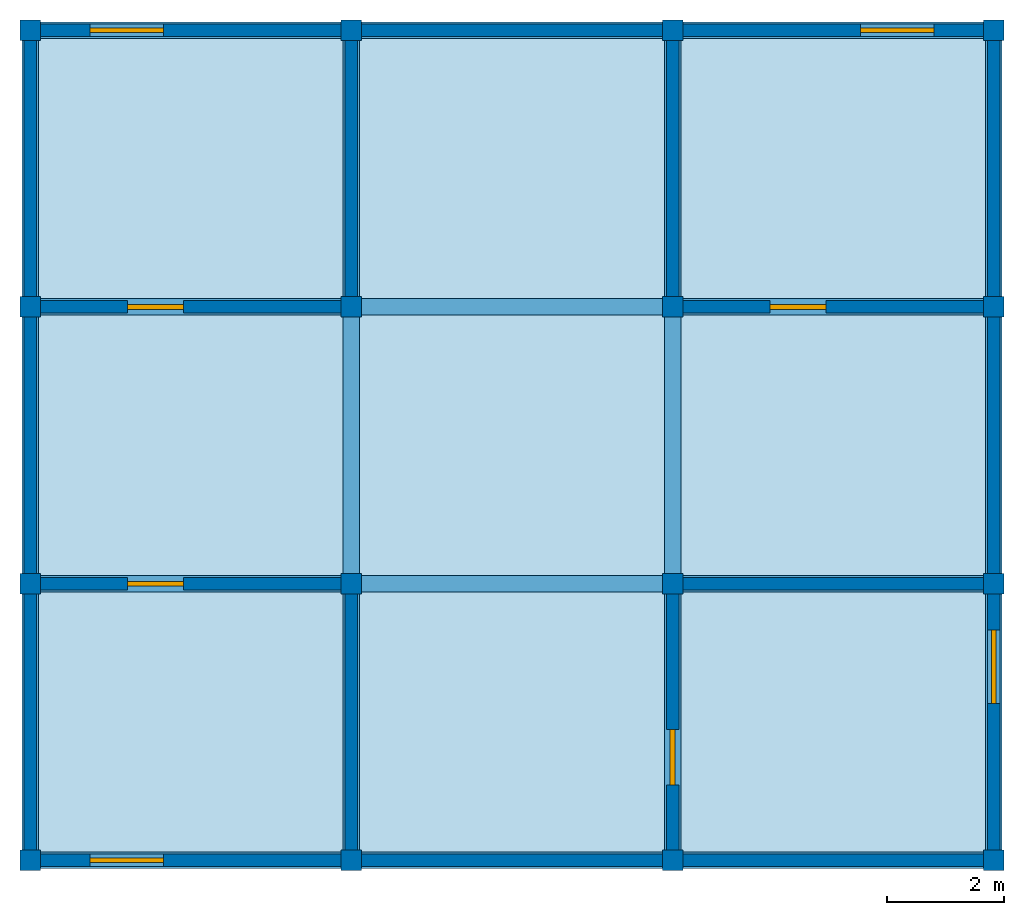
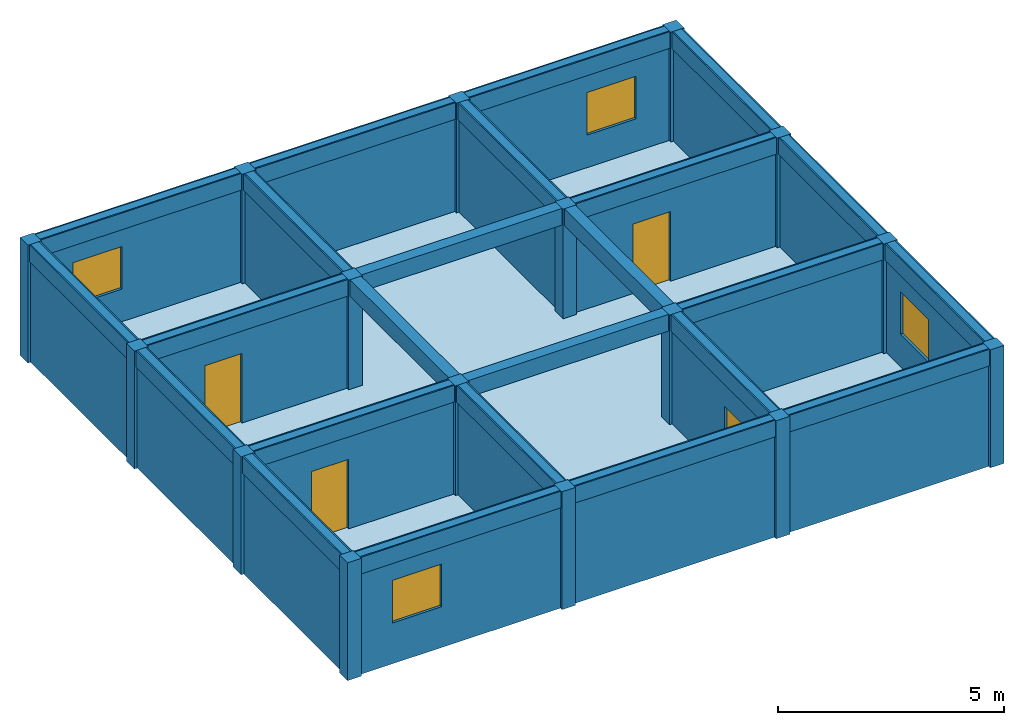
# One storey: 24 beams, 20 walls, 16 columns, 4 doors, 4 windows, 1 slab, 8 openings.
"""IFC4X3 building model written with IfcOpenShell, lengths in metres."""

from ifc_helpers import new_model, si_unit, frame, origin_with_axes, origin_2d, place, context, project, spatial, rectangle, extrude, material, element, fill, save


model = new_model("IFC4X3")

# Units and contexts
model_context = context("Model", 3, precision=1e-05, world=origin_with_axes())
ifc_project = project(units=[si_unit("LENGTHUNIT", "METRE"), si_unit("AREAUNIT", "SQUARE_METRE"), si_unit("VOLUMEUNIT", "CUBIC_METRE")], contexts=[model_context])

# Site, building, storey
site = spatial("IfcSite", under=ifc_project, Name="Antofagasta Parcel", CompositionType="ELEMENT")
building = spatial("IfcBuilding", under=site, Name="Nexo Block", CompositionType="ELEMENT")
storey = spatial("IfcBuildingStorey", under=building, Name="Level 10", CompositionType="ELEMENT", Elevation=28.63)

# Columns
ifc_material_1 = material(Name="Concrete")
column_1_placement = place(None, frame((-8.2, -7.065, 28.627), z_axis=(0.0, 0.0, 1.0), x_axis=(1.0, 0.0, 0.0)))
element("IfcColumn", 1, at=column_1_placement, inside=storey, material=ifc_material_1, Name="Column 10.1", ObjectType="Core Column", PredefinedType="PILASTER", context=model_context, shape_type="SweptSolid", body=[
    extrude(rectangle(XDim=0.35, YDim=0.35, at=origin_2d()), origin_with_axes(), (0.0, 0.0, 1.0), 3.181),
])
column_2_placement = place(None, frame((-8.2, -2.355, 28.627), z_axis=(0.0, 0.0, 1.0), x_axis=(1.0, 0.0, 0.0)))
element("IfcColumn", 2, at=column_2_placement, inside=storey, material=ifc_material_1, Name="Column 10.2", ObjectType="Corner Column", PredefinedType="COLUMN", context=model_context, shape_type="SweptSolid", body=[
    extrude(rectangle(XDim=0.35, YDim=0.35, at=origin_2d()), origin_with_axes(), (0.0, 0.0, 1.0), 3.181),
])
column_3_placement = place(None, frame((-8.2, 2.355, 28.627), z_axis=(0.0, 0.0, 1.0), x_axis=(1.0, 0.0, 0.0)))
element("IfcColumn", 3, at=column_3_placement, inside=storey, material=ifc_material_1, Name="Column 10.3", ObjectType="Structural Column", PredefinedType="PILASTER", context=model_context, shape_type="SweptSolid", body=[
    extrude(rectangle(XDim=0.35, YDim=0.35, at=origin_2d()), origin_with_axes(), (0.0, 0.0, 1.0), 3.181),
])
column_4_placement = place(None, frame((-8.2, 7.065, 28.627), z_axis=(0.0, 0.0, 1.0), x_axis=(1.0, 0.0, 0.0)))
element("IfcColumn", 4, at=column_4_placement, inside=storey, material=ifc_material_1, Name="Column 10.4", ObjectType="Facade Column", PredefinedType="NOTDEFINED", context=model_context, shape_type="SweptSolid", body=[
    extrude(rectangle(XDim=0.35, YDim=0.35, at=origin_2d()), origin_with_axes(), (0.0, 0.0, 1.0), 3.181),
])
column_5_placement = place(None, frame((-2.733, -7.065, 28.627), z_axis=(0.0, 0.0, 1.0), x_axis=(1.0, 0.0, 0.0)))
element("IfcColumn", 5, at=column_5_placement, inside=storey, material=ifc_material_1, Name="Column 10.5", ObjectType="Facade Column", PredefinedType="USERDEFINED", context=model_context, shape_type="SweptSolid", body=[
    extrude(rectangle(XDim=0.35, YDim=0.35, at=origin_2d()), origin_with_axes(), (0.0, 0.0, 1.0), 3.181),
])
column_6_placement = place(None, frame((-2.733, -2.355, 28.627), z_axis=(0.0, 0.0, 1.0), x_axis=(1.0, 0.0, 0.0)))
element("IfcColumn", 6, at=column_6_placement, inside=storey, material=ifc_material_1, Name="Column 10.6", ObjectType="Corner Column", PredefinedType="COLUMN", context=model_context, shape_type="SweptSolid", body=[
    extrude(rectangle(XDim=0.35, YDim=0.35, at=origin_2d()), origin_with_axes(), (0.0, 0.0, 1.0), 3.181),
])
column_7_placement = place(None, frame((-2.733, 2.355, 28.627), z_axis=(0.0, 0.0, 1.0), x_axis=(1.0, 0.0, 0.0)))
element("IfcColumn", 7, at=column_7_placement, inside=storey, material=ifc_material_1, Name="Column 10.7", ObjectType="Structural Column", PredefinedType="NOTDEFINED", context=model_context, shape_type="SweptSolid", body=[
    extrude(rectangle(XDim=0.35, YDim=0.35, at=origin_2d()), origin_with_axes(), (0.0, 0.0, 1.0), 3.181),
])
column_8_placement = place(None, frame((-2.733, 7.065, 28.627), z_axis=(0.0, 0.0, 1.0), x_axis=(1.0, 0.0, 0.0)))
element("IfcColumn", 8, at=column_8_placement, inside=storey, material=ifc_material_1, Name="Column 10.8", ObjectType="Structural Column", PredefinedType="COLUMN", context=model_context, shape_type="SweptSolid", body=[
    extrude(rectangle(XDim=0.35, YDim=0.35, at=origin_2d()), origin_with_axes(), (0.0, 0.0, 1.0), 3.181),
])
column_9_placement = place(None, frame((2.734, -7.065, 28.627), z_axis=(0.0, 0.0, 1.0), x_axis=(1.0, 0.0, 0.0)))
element("IfcColumn", 9, at=column_9_placement, inside=storey, material=ifc_material_1, Name="Column 10.9", ObjectType="Facade Column", PredefinedType="COLUMN", context=model_context, shape_type="SweptSolid", body=[
    extrude(rectangle(XDim=0.35, YDim=0.35, at=origin_2d()), origin_with_axes(), (0.0, 0.0, 1.0), 3.181),
])
column_10_placement = place(None, frame((2.734, -2.355, 28.627), z_axis=(0.0, 0.0, 1.0), x_axis=(1.0, 0.0, 0.0)))
element("IfcColumn", 10, at=column_10_placement, inside=storey, material=ifc_material_1, Name="Column 10.10", ObjectType="Corner Column", PredefinedType="NOTDEFINED", context=model_context, shape_type="SweptSolid", body=[
    extrude(rectangle(XDim=0.35, YDim=0.35, at=origin_2d()), origin_with_axes(), (0.0, 0.0, 1.0), 3.181),
])
column_11_placement = place(None, frame((2.734, 2.355, 28.627), z_axis=(0.0, 0.0, 1.0), x_axis=(1.0, 0.0, 0.0)))
element("IfcColumn", 11, at=column_11_placement, inside=storey, material=ifc_material_1, Name="Column 10.11", ObjectType="Corner Column", PredefinedType="USERDEFINED", context=model_context, shape_type="SweptSolid", body=[
    extrude(rectangle(XDim=0.35, YDim=0.35, at=origin_2d()), origin_with_axes(), (0.0, 0.0, 1.0), 3.181),
])
column_12_placement = place(None, frame((2.734, 7.065, 28.627), z_axis=(0.0, 0.0, 1.0), x_axis=(1.0, 0.0, 0.0)))
element("IfcColumn", 12, at=column_12_placement, inside=storey, material=ifc_material_1, Name="Column 10.12", ObjectType="Facade Column", PredefinedType="USERDEFINED", context=model_context, shape_type="SweptSolid", body=[
    extrude(rectangle(XDim=0.35, YDim=0.35, at=origin_2d()), origin_with_axes(), (0.0, 0.0, 1.0), 3.181),
])
column_13_placement = place(None, frame((8.201, -7.065, 28.627), z_axis=(0.0, 0.0, 1.0), x_axis=(1.0, 0.0, 0.0)))
element("IfcColumn", 13, at=column_13_placement, inside=storey, material=ifc_material_1, Name="Column 10.13", ObjectType="Corner Column", PredefinedType="NOTDEFINED", context=model_context, shape_type="SweptSolid", body=[
    extrude(rectangle(XDim=0.35, YDim=0.35, at=origin_2d()), origin_with_axes(), (0.0, 0.0, 1.0), 3.181),
])
column_14_placement = place(None, frame((8.201, -2.355, 28.627), z_axis=(0.0, 0.0, 1.0), x_axis=(1.0, 0.0, 0.0)))
element("IfcColumn", 14, at=column_14_placement, inside=storey, material=ifc_material_1, Name="Column 10.14", ObjectType="Structural Column", PredefinedType="COLUMN", context=model_context, shape_type="SweptSolid", body=[
    extrude(rectangle(XDim=0.35, YDim=0.35, at=origin_2d()), origin_with_axes(), (0.0, 0.0, 1.0), 3.181),
])
column_15_placement = place(None, frame((8.201, 2.355, 28.627), z_axis=(0.0, 0.0, 1.0), x_axis=(1.0, 0.0, 0.0)))
element("IfcColumn", 15, at=column_15_placement, inside=storey, material=ifc_material_1, Name="Column 10.15", ObjectType="Core Column", PredefinedType="PILASTER", context=model_context, shape_type="SweptSolid", body=[
    extrude(rectangle(XDim=0.35, YDim=0.35, at=origin_2d()), origin_with_axes(), (0.0, 0.0, 1.0), 3.181),
])
column_16_placement = place(None, frame((8.201, 7.065, 28.627), z_axis=(0.0, 0.0, 1.0), x_axis=(1.0, 0.0, 0.0)))
element("IfcColumn", 16, at=column_16_placement, inside=storey, material=ifc_material_1, Name="Column 10.16", ObjectType="Facade Column", PredefinedType="COLUMN", context=model_context, shape_type="SweptSolid", body=[
    extrude(rectangle(XDim=0.35, YDim=0.35, at=origin_2d()), origin_with_axes(), (0.0, 0.0, 1.0), 3.181),
])

# Beams
ifc_material_2 = material(Name="Timber")
beam_1_placement = place(None, frame((-5.466, -7.065, 31.358), z_axis=(0.0, 0.0, 1.0), x_axis=(1.0, 0.0, 0.0)))
element("IfcBeam", 17, at=beam_1_placement, inside=storey, material=ifc_material_2, Name="Beam 10.1", ObjectType="Rafter Beam", PredefinedType="HOLLOWCORE", context=model_context, shape_type="SweptSolid", body=[
    extrude(rectangle(XDim=5.467, YDim=0.28, at=origin_2d()), origin_with_axes(), (0.0, 0.0, 1.0), 0.45),
])
beam_2_placement = place(None, frame((0.0, -7.065, 31.358), z_axis=(0.0, 0.0, 1.0), x_axis=(1.0, 0.0, 0.0)))
element("IfcBeam", 18, at=beam_2_placement, inside=storey, material=ifc_material_2, Name="Beam 10.2", ObjectType="Ridge Beam", PredefinedType="BEAM", context=model_context, shape_type="SweptSolid", body=[
    extrude(rectangle(XDim=5.467, YDim=0.28, at=origin_2d()), origin_with_axes(), (0.0, 0.0, 1.0), 0.45),
])
beam_3_placement = place(None, frame((5.468, -7.065, 31.358), z_axis=(0.0, 0.0, 1.0), x_axis=(1.0, 0.0, 0.0)))
element("IfcBeam", 19, at=beam_3_placement, inside=storey, material=ifc_material_2, Name="Beam 10.3", ObjectType="Primary Beam", PredefinedType="LINTEL", context=model_context, shape_type="SweptSolid", body=[
    extrude(rectangle(XDim=5.467, YDim=0.28, at=origin_2d()), origin_with_axes(), (0.0, 0.0, 1.0), 0.45),
])
beam_4_placement = place(None, frame((-5.466, -2.355, 31.358), z_axis=(0.0, 0.0, 1.0), x_axis=(1.0, 0.0, 0.0)))
element("IfcBeam", 20, at=beam_4_placement, inside=storey, material=ifc_material_2, Name="Beam 10.4", ObjectType="Rafter Beam", PredefinedType="HOLLOWCORE", context=model_context, shape_type="SweptSolid", body=[
    extrude(rectangle(XDim=5.467, YDim=0.28, at=origin_2d()), origin_with_axes(), (0.0, 0.0, 1.0), 0.45),
])
beam_5_placement = place(None, frame((0.0, -2.355, 31.358), z_axis=(0.0, 0.0, 1.0), x_axis=(1.0, 0.0, 0.0)))
element("IfcBeam", 21, at=beam_5_placement, inside=storey, material=ifc_material_2, Name="Beam 10.5", ObjectType="Ridge Beam", PredefinedType="USERDEFINED", context=model_context, shape_type="SweptSolid", body=[
    extrude(rectangle(XDim=5.467, YDim=0.28, at=origin_2d()), origin_with_axes(), (0.0, 0.0, 1.0), 0.45),
])
beam_6_placement = place(None, frame((5.468, -2.355, 31.358), z_axis=(0.0, 0.0, 1.0), x_axis=(1.0, 0.0, 0.0)))
element("IfcBeam", 22, at=beam_6_placement, inside=storey, material=ifc_material_2, Name="Beam 10.6", ObjectType="Primary Beam", PredefinedType="BEAM", context=model_context, shape_type="SweptSolid", body=[
    extrude(rectangle(XDim=5.467, YDim=0.28, at=origin_2d()), origin_with_axes(), (0.0, 0.0, 1.0), 0.45),
])
beam_7_placement = place(None, frame((-5.466, 2.355, 31.358), z_axis=(0.0, 0.0, 1.0), x_axis=(1.0, 0.0, 0.0)))
element("IfcBeam", 23, at=beam_7_placement, inside=storey, material=ifc_material_2, Name="Beam 10.7", ObjectType="Transfer Beam", PredefinedType="BEAM", context=model_context, shape_type="SweptSolid", body=[
    extrude(rectangle(XDim=5.467, YDim=0.28, at=origin_2d()), origin_with_axes(), (0.0, 0.0, 1.0), 0.45),
])
beam_8_placement = place(None, frame((0.0, 2.355, 31.358), z_axis=(0.0, 0.0, 1.0), x_axis=(1.0, 0.0, 0.0)))
element("IfcBeam", 24, at=beam_8_placement, inside=storey, material=ifc_material_2, Name="Beam 10.8", ObjectType="Rafter Beam", PredefinedType="BEAM", context=model_context, shape_type="SweptSolid", body=[
    extrude(rectangle(XDim=5.467, YDim=0.28, at=origin_2d()), origin_with_axes(), (0.0, 0.0, 1.0), 0.45),
])
beam_9_placement = place(None, frame((5.468, 2.355, 31.358), z_axis=(0.0, 0.0, 1.0), x_axis=(1.0, 0.0, 0.0)))
element("IfcBeam", 25, at=beam_9_placement, inside=storey, material=ifc_material_2, Name="Beam 10.9", ObjectType="Rafter Beam", PredefinedType="LINTEL", context=model_context, shape_type="SweptSolid", body=[
    extrude(rectangle(XDim=5.467, YDim=0.28, at=origin_2d()), origin_with_axes(), (0.0, 0.0, 1.0), 0.45),
])
beam_10_placement = place(None, frame((-5.466, 7.065, 31.358), z_axis=(0.0, 0.0, 1.0), x_axis=(1.0, 0.0, 0.0)))
element("IfcBeam", 26, at=beam_10_placement, inside=storey, material=ifc_material_2, Name="Beam 10.10", ObjectType="Rafter Beam", PredefinedType="HOLLOWCORE", context=model_context, shape_type="SweptSolid", body=[
    extrude(rectangle(XDim=5.467, YDim=0.28, at=origin_2d()), origin_with_axes(), (0.0, 0.0, 1.0), 0.45),
])
beam_11_placement = place(None, frame((0.0, 7.065, 31.358), z_axis=(0.0, 0.0, 1.0), x_axis=(1.0, 0.0, 0.0)))
element("IfcBeam", 27, at=beam_11_placement, inside=storey, material=ifc_material_2, Name="Beam 10.11", ObjectType="Ridge Beam", PredefinedType="T_BEAM", context=model_context, shape_type="SweptSolid", body=[
    extrude(rectangle(XDim=5.467, YDim=0.28, at=origin_2d()), origin_with_axes(), (0.0, 0.0, 1.0), 0.45),
])
beam_12_placement = place(None, frame((5.468, 7.065, 31.358), z_axis=(0.0, 0.0, 1.0), x_axis=(1.0, 0.0, 0.0)))
element("IfcBeam", 28, at=beam_12_placement, inside=storey, material=ifc_material_2, Name="Beam 10.12", ObjectType="Secondary Beam", PredefinedType="NOTDEFINED", context=model_context, shape_type="SweptSolid", body=[
    extrude(rectangle(XDim=5.467, YDim=0.28, at=origin_2d()), origin_with_axes(), (0.0, 0.0, 1.0), 0.45),
])
beam_13_placement = place(None, frame((-8.2, -4.71, 31.358), z_axis=(0.0, 0.0, 1.0), x_axis=(0.0, 1.0, 0.0)))
element("IfcBeam", 29, at=beam_13_placement, inside=storey, material=ifc_material_2, Name="Beam 10.13", ObjectType="Secondary Beam", PredefinedType="SPANDREL", context=model_context, shape_type="SweptSolid", body=[
    extrude(rectangle(XDim=4.71, YDim=0.28, at=origin_2d()), origin_with_axes(), (0.0, 0.0, 1.0), 0.45),
])
beam_14_placement = place(None, frame((-8.2, 0.0, 31.358), z_axis=(0.0, 0.0, 1.0), x_axis=(0.0, 1.0, 0.0)))
element("IfcBeam", 30, at=beam_14_placement, inside=storey, material=ifc_material_2, Name="Beam 10.14", ObjectType="Transfer Beam", PredefinedType="SPANDREL", context=model_context, shape_type="SweptSolid", body=[
    extrude(rectangle(XDim=4.71, YDim=0.28, at=origin_2d()), origin_with_axes(), (0.0, 0.0, 1.0), 0.45),
])
beam_15_placement = place(None, frame((-8.2, 4.71, 31.358), z_axis=(0.0, 0.0, 1.0), x_axis=(0.0, 1.0, 0.0)))
element("IfcBeam", 31, at=beam_15_placement, inside=storey, material=ifc_material_2, Name="Beam 10.15", ObjectType="Primary Beam", PredefinedType="T_BEAM", context=model_context, shape_type="SweptSolid", body=[
    extrude(rectangle(XDim=4.71, YDim=0.28, at=origin_2d()), origin_with_axes(), (0.0, 0.0, 1.0), 0.45),
])
beam_16_placement = place(None, frame((-2.733, -4.71, 31.358), z_axis=(0.0, 0.0, 1.0), x_axis=(0.0, 1.0, 0.0)))
element("IfcBeam", 32, at=beam_16_placement, inside=storey, material=ifc_material_2, Name="Beam 10.16", ObjectType="Primary Beam", PredefinedType="SPANDREL", context=model_context, shape_type="SweptSolid", body=[
    extrude(rectangle(XDim=4.71, YDim=0.28, at=origin_2d()), origin_with_axes(), (0.0, 0.0, 1.0), 0.45),
])
beam_17_placement = place(None, frame((-2.733, 0.0, 31.358), z_axis=(0.0, 0.0, 1.0), x_axis=(0.0, 1.0, 0.0)))
element("IfcBeam", 33, at=beam_17_placement, inside=storey, material=ifc_material_2, Name="Beam 10.17", ObjectType="Secondary Beam", PredefinedType="LINTEL", context=model_context, shape_type="SweptSolid", body=[
    extrude(rectangle(XDim=4.71, YDim=0.28, at=origin_2d()), origin_with_axes(), (0.0, 0.0, 1.0), 0.45),
])
beam_18_placement = place(None, frame((-2.733, 4.71, 31.358), z_axis=(0.0, 0.0, 1.0), x_axis=(0.0, 1.0, 0.0)))
element("IfcBeam", 34, at=beam_18_placement, inside=storey, material=ifc_material_2, Name="Beam 10.18", ObjectType="Secondary Beam", PredefinedType="T_BEAM", context=model_context, shape_type="SweptSolid", body=[
    extrude(rectangle(XDim=4.71, YDim=0.28, at=origin_2d()), origin_with_axes(), (0.0, 0.0, 1.0), 0.45),
])
beam_19_placement = place(None, frame((2.734, -4.71, 31.358), z_axis=(0.0, 0.0, 1.0), x_axis=(0.0, 1.0, 0.0)))
element("IfcBeam", 35, at=beam_19_placement, inside=storey, material=ifc_material_2, Name="Beam 10.19", ObjectType="Ridge Beam", PredefinedType="LINTEL", context=model_context, shape_type="SweptSolid", body=[
    extrude(rectangle(XDim=4.71, YDim=0.28, at=origin_2d()), origin_with_axes(), (0.0, 0.0, 1.0), 0.45),
])
beam_20_placement = place(None, frame((2.734, 0.0, 31.358), z_axis=(0.0, 0.0, 1.0), x_axis=(0.0, 1.0, 0.0)))
element("IfcBeam", 36, at=beam_20_placement, inside=storey, material=ifc_material_2, Name="Beam 10.20", ObjectType="Primary Beam", PredefinedType="BEAM", context=model_context, shape_type="SweptSolid", body=[
    extrude(rectangle(XDim=4.71, YDim=0.28, at=origin_2d()), origin_with_axes(), (0.0, 0.0, 1.0), 0.45),
])
beam_21_placement = place(None, frame((2.734, 4.71, 31.358), z_axis=(0.0, 0.0, 1.0), x_axis=(0.0, 1.0, 0.0)))
element("IfcBeam", 37, at=beam_21_placement, inside=storey, material=ifc_material_2, Name="Beam 10.21", ObjectType="Transfer Beam", PredefinedType="NOTDEFINED", context=model_context, shape_type="SweptSolid", body=[
    extrude(rectangle(XDim=4.71, YDim=0.28, at=origin_2d()), origin_with_axes(), (0.0, 0.0, 1.0), 0.45),
])
beam_22_placement = place(None, frame((8.201, -4.71, 31.358), z_axis=(0.0, 0.0, 1.0), x_axis=(0.0, 1.0, 0.0)))
element("IfcBeam", 38, at=beam_22_placement, inside=storey, material=ifc_material_2, Name="Beam 10.22", ObjectType="Transfer Beam", PredefinedType="BEAM", context=model_context, shape_type="SweptSolid", body=[
    extrude(rectangle(XDim=4.71, YDim=0.28, at=origin_2d()), origin_with_axes(), (0.0, 0.0, 1.0), 0.45),
])
beam_23_placement = place(None, frame((8.201, 0.0, 31.358), z_axis=(0.0, 0.0, 1.0), x_axis=(0.0, 1.0, 0.0)))
element("IfcBeam", 39, at=beam_23_placement, inside=storey, material=ifc_material_2, Name="Beam 10.23", ObjectType="Rafter Beam", PredefinedType="USERDEFINED", context=model_context, shape_type="SweptSolid", body=[
    extrude(rectangle(XDim=4.71, YDim=0.28, at=origin_2d()), origin_with_axes(), (0.0, 0.0, 1.0), 0.45),
])
beam_24_placement = place(None, frame((8.201, 4.71, 31.358), z_axis=(0.0, 0.0, 1.0), x_axis=(0.0, 1.0, 0.0)))
element("IfcBeam", 40, at=beam_24_placement, inside=storey, material=ifc_material_2, Name="Beam 10.24", ObjectType="Transfer Beam", PredefinedType="BEAM", context=model_context, shape_type="SweptSolid", body=[
    extrude(rectangle(XDim=4.71, YDim=0.28, at=origin_2d()), origin_with_axes(), (0.0, 0.0, 1.0), 0.45),
])

# Slab
slab_placement = place(None, frame((0.0, 0.0, 28.63), z_axis=(0.0, 0.0, 1.0), x_axis=(1.0, 0.0, 0.0)))
element("IfcSlab", 41, at=slab_placement, inside=storey, material=ifc_material_1, Name="Slab 10", ObjectType="Floor Slab", PredefinedType="FLOOR", context=model_context, shape_type="SweptSolid", body=[
    extrude(rectangle(XDim=16.4, YDim=14.13, at=origin_2d()), origin_with_axes(), (0.0, 0.0, 1.0), 0.22),
])

# Wall, opening, door
ifc_material_3 = material(Name="Brick")
wall_1_placement = place(None, frame((-5.466, -2.355, 28.627), z_axis=(0.0, 0.0, 1.0), x_axis=(1.0, 0.0, 0.0)))
wall_1 = element("IfcWall", 42, at=wall_1_placement, inside=storey, material=ifc_material_3, Name="Wall 10.1", ObjectType="Corridor Partition", PredefinedType="POLYGONAL", context=model_context, shape_type="SweptSolid", body=[
    extrude(rectangle(XDim=5.467, YDim=0.211563, at=origin_2d()), origin_with_axes(), (0.0, 0.0, 1.0), 3.181),
])
opening_1_placement = place(None, frame((-6.066, -2.355, 28.627), z_axis=(0.0, 0.0, 1.0), x_axis=(1.0, 0.0, 0.0)))
opening_1 = element("IfcOpeningElement", 43, at=opening_1_placement, cuts=wall_1, Name="Door opening 10.1", ObjectType="Door Opening", PredefinedType="OPENING", context=model_context, shape_type="SweptSolid", body=[
    extrude(rectangle(XDim=0.95, YDim=0.291563, at=origin_2d()), origin_with_axes(), (0.0, 0.0, 1.0), 2.1),
])
door_1_placement = place(None, frame((-6.066, -2.355, 28.627), z_axis=(0.0, 0.0, 1.0), x_axis=(1.0, 0.0, 0.0)))
door_1 = element("IfcDoor", 44, at=door_1_placement, inside=storey, Name="Door 10.1", ObjectType="Interior Door", OverallHeight=2.1, OverallWidth=0.95, context=model_context, shape_type="SweptSolid", body=[
    extrude(rectangle(XDim=0.95, YDim=0.08, at=origin_2d()), origin_with_axes(), (0.0, 0.0, 1.0), 2.1),
])
fill(opening_1, door_1)

# Wall
ifc_material_4 = material(Name="CLT")
wall_2_placement = place(None, frame((-2.7325, -4.71, 28.627), z_axis=(0.0, 0.0, 1.0), x_axis=(0.0, 1.0, 0.0)))
element("IfcWall", 45, at=wall_2_placement, inside=storey, material=ifc_material_4, Name="Wall 10.2", ObjectType="Corridor Partition", PredefinedType="PLUMBINGWALL", context=model_context, shape_type="SweptSolid", body=[
    extrude(rectangle(XDim=4.71, YDim=0.211563, at=origin_2d()), origin_with_axes(), (0.0, 0.0, 1.0), 3.181),
])

# Wall, opening, window
ifc_material_5 = material(Name="Gypsum")
wall_3_placement = place(None, frame((-5.466, -7.065, 28.627), z_axis=(0.0, 0.0, 1.0), x_axis=(1.0, 0.0, 0.0)))
wall_3 = element("IfcWall", 46, at=wall_3_placement, inside=storey, material=ifc_material_5, Name="Wall 10.3", ObjectType="Exterior Wall", PredefinedType="PARTITIONING", context=model_context, shape_type="SweptSolid", body=[
    extrude(rectangle(XDim=5.467, YDim=0.211563, at=origin_2d()), origin_with_axes(), (0.0, 0.0, 1.0), 3.181),
])
opening_2_placement = place(None, frame((-6.559, -7.065, 29.727), z_axis=(0.0, 0.0, 1.0), x_axis=(1.0, 0.0, 0.0)))
opening_2 = element("IfcOpeningElement", 47, at=opening_2_placement, cuts=wall_3, Name="Window opening 10.2", ObjectType="Window Opening", PredefinedType="OPENING", context=model_context, shape_type="SweptSolid", body=[
    extrude(rectangle(XDim=1.25, YDim=0.291563, at=origin_2d()), origin_with_axes(), (0.0, 0.0, 1.0), 1.15),
])
window_1_placement = place(None, frame((-6.559, -7.065, 29.727), z_axis=(0.0, 0.0, 1.0), x_axis=(1.0, 0.0, 0.0)))
window_1 = element("IfcWindow", 48, at=window_1_placement, inside=storey, Name="Window 10.2", ObjectType="Sliding Window", OverallHeight=1.15, OverallWidth=1.25, context=model_context, shape_type="SweptSolid", body=[
    extrude(rectangle(XDim=1.25, YDim=0.08, at=origin_2d()), origin_with_axes(), (0.0, 0.0, 1.0), 1.15),
])
fill(opening_2, window_1)

# Wall
wall_4_placement = place(None, frame((-8.1995, -4.71, 28.627), z_axis=(0.0, 0.0, 1.0), x_axis=(0.0, 1.0, 0.0)))
element("IfcWall", 49, at=wall_4_placement, inside=storey, material=ifc_material_3, Name="Wall 10.4", ObjectType="Exterior Wall", PredefinedType="SOLIDWALL", context=model_context, shape_type="SweptSolid", body=[
    extrude(rectangle(XDim=4.71, YDim=0.211563, at=origin_2d()), origin_with_axes(), (0.0, 0.0, 1.0), 3.181),
])

# Wall, opening, door
wall_5_placement = place(None, frame((2.7335, -4.71, 28.627), z_axis=(0.0, 0.0, 1.0), x_axis=(0.0, 1.0, 0.0)))
wall_5 = element("IfcWall", 50, at=wall_5_placement, inside=storey, material=ifc_material_1, Name="Wall 10.5", ObjectType="Corridor Partition", PredefinedType="USERDEFINED", context=model_context, shape_type="SweptSolid", body=[
    extrude(rectangle(XDim=4.71, YDim=0.211563, at=origin_2d()), origin_with_axes(), (0.0, 0.0, 1.0), 3.181),
])
opening_3_placement = place(None, frame((2.733, -5.31, 28.627), z_axis=(0.0, 0.0, 1.0), x_axis=(0.0, 1.0, 0.0)))
opening_3 = element("IfcOpeningElement", 51, at=opening_3_placement, cuts=wall_5, Name="Door opening 10.3", ObjectType="Door Opening", PredefinedType="OPENING", context=model_context, shape_type="SweptSolid", body=[
    extrude(rectangle(XDim=0.95, YDim=0.291563, at=origin_2d()), origin_with_axes(), (0.0, 0.0, 1.0), 2.1),
])
door_2_placement = place(None, frame((2.733, -5.31, 28.627), z_axis=(0.0, 0.0, 1.0), x_axis=(0.0, 1.0, 0.0)))
door_2 = element("IfcDoor", 52, at=door_2_placement, inside=storey, Name="Door 10.3", ObjectType="Entry Door", OverallHeight=2.1, OverallWidth=0.95, context=model_context, shape_type="SweptSolid", body=[
    extrude(rectangle(XDim=0.95, YDim=0.08, at=origin_2d()), origin_with_axes(), (0.0, 0.0, 1.0), 2.1),
])
fill(opening_3, door_2)

# Walls
wall_6_placement = place(None, frame((0.0, -7.065, 28.627), z_axis=(0.0, 0.0, 1.0), x_axis=(1.0, 0.0, 0.0)))
element("IfcWall", 53, at=wall_6_placement, inside=storey, material=ifc_material_5, Name="Wall 10.6", ObjectType="Exterior Wall", PredefinedType="PLUMBINGWALL", context=model_context, shape_type="SweptSolid", body=[
    extrude(rectangle(XDim=5.467, YDim=0.211563, at=origin_2d()), origin_with_axes(), (0.0, 0.0, 1.0), 3.181),
])
wall_7_placement = place(None, frame((5.467, -2.355, 28.627), z_axis=(0.0, 0.0, 1.0), x_axis=(1.0, 0.0, 0.0)))
element("IfcWall", 54, at=wall_7_placement, inside=storey, material=ifc_material_4, Name="Wall 10.7", ObjectType="Corridor Partition", PredefinedType="NOTDEFINED", context=model_context, shape_type="SweptSolid", body=[
    extrude(rectangle(XDim=5.467, YDim=0.211563, at=origin_2d()), origin_with_axes(), (0.0, 0.0, 1.0), 3.181),
])

# Wall, opening, window
wall_8_placement = place(None, frame((8.2005, -4.71, 28.627), z_axis=(0.0, 0.0, 1.0), x_axis=(0.0, 1.0, 0.0)))
wall_8 = element("IfcWall", 55, at=wall_8_placement, inside=storey, material=ifc_material_4, Name="Wall 10.8", ObjectType="Exterior Wall", PredefinedType="MOVABLE", context=model_context, shape_type="SweptSolid", body=[
    extrude(rectangle(XDim=4.71, YDim=0.211563, at=origin_2d()), origin_with_axes(), (0.0, 0.0, 1.0), 3.181),
])
opening_4_placement = place(None, frame((8.2, -3.768, 29.727), z_axis=(0.0, 0.0, 1.0), x_axis=(0.0, 1.0, 0.0)))
opening_4 = element("IfcOpeningElement", 56, at=opening_4_placement, cuts=wall_8, Name="Window opening 10.4", ObjectType="Window Opening", PredefinedType="OPENING", context=model_context, shape_type="SweptSolid", body=[
    extrude(rectangle(XDim=1.25, YDim=0.291563, at=origin_2d()), origin_with_axes(), (0.0, 0.0, 1.0), 1.15),
])
window_2_placement = place(None, frame((8.2, -3.768, 29.727), z_axis=(0.0, 0.0, 1.0), x_axis=(0.0, 1.0, 0.0)))
window_2 = element("IfcWindow", 57, at=window_2_placement, inside=storey, Name="Window 10.4", ObjectType="Sliding Window", OverallHeight=1.15, OverallWidth=1.25, context=model_context, shape_type="SweptSolid", body=[
    extrude(rectangle(XDim=1.25, YDim=0.08, at=origin_2d()), origin_with_axes(), (0.0, 0.0, 1.0), 1.15),
])
fill(opening_4, window_2)

# Wall
wall_9_placement = place(None, frame((5.467, -7.065, 28.627), z_axis=(0.0, 0.0, 1.0), x_axis=(1.0, 0.0, 0.0)))
element("IfcWall", 58, at=wall_9_placement, inside=storey, material=ifc_material_5, Name="Wall 10.9", ObjectType="Exterior Wall", PredefinedType="USERDEFINED", context=model_context, shape_type="SweptSolid", body=[
    extrude(rectangle(XDim=5.467, YDim=0.211563, at=origin_2d()), origin_with_axes(), (0.0, 0.0, 1.0), 3.181),
])

# Wall, opening, door
wall_10_placement = place(None, frame((-5.466, 2.355, 28.627), z_axis=(0.0, 0.0, 1.0), x_axis=(1.0, 0.0, 0.0)))
wall_10 = element("IfcWall", 59, at=wall_10_placement, inside=storey, material=ifc_material_3, Name="Wall 10.10", ObjectType="Corridor Partition", PredefinedType="PARTITIONING", context=model_context, shape_type="SweptSolid", body=[
    extrude(rectangle(XDim=5.467, YDim=0.211563, at=origin_2d()), origin_with_axes(), (0.0, 0.0, 1.0), 3.181),
])
opening_5_placement = place(None, frame((-6.066, 2.355, 28.627), z_axis=(0.0, 0.0, 1.0), x_axis=(1.0, 0.0, 0.0)))
opening_5 = element("IfcOpeningElement", 60, at=opening_5_placement, cuts=wall_10, Name="Door opening 10.5", ObjectType="Door Opening", PredefinedType="OPENING", context=model_context, shape_type="SweptSolid", body=[
    extrude(rectangle(XDim=0.95, YDim=0.291563, at=origin_2d()), origin_with_axes(), (0.0, 0.0, 1.0), 2.1),
])
door_3_placement = place(None, frame((-6.066, 2.355, 28.627), z_axis=(0.0, 0.0, 1.0), x_axis=(1.0, 0.0, 0.0)))
door_3 = element("IfcDoor", 61, at=door_3_placement, inside=storey, Name="Door 10.5", ObjectType="Entry Door", OverallHeight=2.1, OverallWidth=0.95, context=model_context, shape_type="SweptSolid", body=[
    extrude(rectangle(XDim=0.95, YDim=0.08, at=origin_2d()), origin_with_axes(), (0.0, 0.0, 1.0), 2.1),
])
fill(opening_5, door_3)

# Wall
wall_11_placement = place(None, frame((-8.1995, 0.0, 28.627), z_axis=(0.0, 0.0, 1.0), x_axis=(0.0, 1.0, 0.0)))
element("IfcWall", 62, at=wall_11_placement, inside=storey, material=ifc_material_5, Name="Wall 10.11", ObjectType="Exterior Wall", PredefinedType="PARTITIONING", context=model_context, shape_type="SweptSolid", body=[
    extrude(rectangle(XDim=4.71, YDim=0.211563, at=origin_2d()), origin_with_axes(), (0.0, 0.0, 1.0), 3.181),
])

# Wall, opening, door
wall_12_placement = place(None, frame((5.467, 2.355, 28.627), z_axis=(0.0, 0.0, 1.0), x_axis=(1.0, 0.0, 0.0)))
wall_12 = element("IfcWall", 63, at=wall_12_placement, inside=storey, material=ifc_material_3, Name="Wall 10.12", ObjectType="Corridor Partition", PredefinedType="SHEAR", context=model_context, shape_type="SweptSolid", body=[
    extrude(rectangle(XDim=5.467, YDim=0.211563, at=origin_2d()), origin_with_axes(), (0.0, 0.0, 1.0), 3.181),
])
opening_6_placement = place(None, frame((4.867, 2.355, 28.627), z_axis=(0.0, 0.0, 1.0), x_axis=(1.0, 0.0, 0.0)))
opening_6 = element("IfcOpeningElement", 64, at=opening_6_placement, cuts=wall_12, Name="Door opening 10.7", ObjectType="Door Opening", PredefinedType="OPENING", context=model_context, shape_type="SweptSolid", body=[
    extrude(rectangle(XDim=0.95, YDim=0.291563, at=origin_2d()), origin_with_axes(), (0.0, 0.0, 1.0), 2.1),
])
door_4_placement = place(None, frame((4.867, 2.355, 28.627), z_axis=(0.0, 0.0, 1.0), x_axis=(1.0, 0.0, 0.0)))
door_4 = element("IfcDoor", 65, at=door_4_placement, inside=storey, Name="Door 10.7", ObjectType="Entry Door", OverallHeight=2.1, OverallWidth=0.95, context=model_context, shape_type="SweptSolid", body=[
    extrude(rectangle(XDim=0.95, YDim=0.08, at=origin_2d()), origin_with_axes(), (0.0, 0.0, 1.0), 2.1),
])
fill(opening_6, door_4)

# Wall
wall_13_placement = place(None, frame((8.2005, 0.0, 28.627), z_axis=(0.0, 0.0, 1.0), x_axis=(0.0, 1.0, 0.0)))
element("IfcWall", 66, at=wall_13_placement, inside=storey, material=ifc_material_3, Name="Wall 10.13", ObjectType="Exterior Wall", PredefinedType="USERDEFINED", context=model_context, shape_type="SweptSolid", body=[
    extrude(rectangle(XDim=4.71, YDim=0.211563, at=origin_2d()), origin_with_axes(), (0.0, 0.0, 1.0), 3.181),
])

# Wall, opening, window
wall_14_placement = place(None, frame((-5.466, 7.065, 28.627), z_axis=(0.0, 0.0, 1.0), x_axis=(1.0, 0.0, 0.0)))
wall_14 = element("IfcWall", 67, at=wall_14_placement, inside=storey, material=ifc_material_4, Name="Wall 10.14", ObjectType="Exterior Wall", PredefinedType="SHEAR", context=model_context, shape_type="SweptSolid", body=[
    extrude(rectangle(XDim=5.467, YDim=0.211563, at=origin_2d()), origin_with_axes(), (0.0, 0.0, 1.0), 3.181),
])
opening_7_placement = place(None, frame((-6.559, 7.065, 29.727), z_axis=(0.0, 0.0, 1.0), x_axis=(1.0, 0.0, 0.0)))
opening_7 = element("IfcOpeningElement", 68, at=opening_7_placement, cuts=wall_14, Name="Window opening 10.6", ObjectType="Window Opening", PredefinedType="OPENING", context=model_context, shape_type="SweptSolid", body=[
    extrude(rectangle(XDim=1.25, YDim=0.291563, at=origin_2d()), origin_with_axes(), (0.0, 0.0, 1.0), 1.15),
])
window_3_placement = place(None, frame((-6.559, 7.065, 29.727), z_axis=(0.0, 0.0, 1.0), x_axis=(1.0, 0.0, 0.0)))
window_3 = element("IfcWindow", 69, at=window_3_placement, inside=storey, Name="Window 10.6", ObjectType="Sliding Window", OverallHeight=1.15, OverallWidth=1.25, context=model_context, shape_type="SweptSolid", body=[
    extrude(rectangle(XDim=1.25, YDim=0.08, at=origin_2d()), origin_with_axes(), (0.0, 0.0, 1.0), 1.15),
])
fill(opening_7, window_3)

# Walls
wall_15_placement = place(None, frame((-2.7325, 4.71, 28.627), z_axis=(0.0, 0.0, 1.0), x_axis=(0.0, 1.0, 0.0)))
element("IfcWall", 70, at=wall_15_placement, inside=storey, material=ifc_material_3, Name="Wall 10.15", ObjectType="Corridor Partition", PredefinedType="STANDARD", context=model_context, shape_type="SweptSolid", body=[
    extrude(rectangle(XDim=4.71, YDim=0.211563, at=origin_2d()), origin_with_axes(), (0.0, 0.0, 1.0), 3.181),
])
wall_16_placement = place(None, frame((-8.1995, 4.71, 28.627), z_axis=(0.0, 0.0, 1.0), x_axis=(0.0, 1.0, 0.0)))
element("IfcWall", 71, at=wall_16_placement, inside=storey, material=ifc_material_5, Name="Wall 10.16", ObjectType="Exterior Wall", PredefinedType="STANDARD", context=model_context, shape_type="SweptSolid", body=[
    extrude(rectangle(XDim=4.71, YDim=0.211563, at=origin_2d()), origin_with_axes(), (0.0, 0.0, 1.0), 3.181),
])
wall_17_placement = place(None, frame((0.0, 7.065, 28.627), z_axis=(0.0, 0.0, 1.0), x_axis=(1.0, 0.0, 0.0)))
element("IfcWall", 72, at=wall_17_placement, inside=storey, material=ifc_material_5, Name="Wall 10.17", ObjectType="Exterior Wall", PredefinedType="PARAPET", context=model_context, shape_type="SweptSolid", body=[
    extrude(rectangle(XDim=5.467, YDim=0.211563, at=origin_2d()), origin_with_axes(), (0.0, 0.0, 1.0), 3.181),
])
wall_18_placement = place(None, frame((2.7335, 4.71, 28.627), z_axis=(0.0, 0.0, 1.0), x_axis=(0.0, 1.0, 0.0)))
element("IfcWall", 73, at=wall_18_placement, inside=storey, material=ifc_material_4, Name="Wall 10.18", ObjectType="Corridor Partition", PredefinedType="ELEMENTEDWALL", context=model_context, shape_type="SweptSolid", body=[
    extrude(rectangle(XDim=4.71, YDim=0.211563, at=origin_2d()), origin_with_axes(), (0.0, 0.0, 1.0), 3.181),
])

# Wall, opening, window
wall_19_placement = place(None, frame((5.467, 7.065, 28.627), z_axis=(0.0, 0.0, 1.0), x_axis=(1.0, 0.0, 0.0)))
wall_19 = element("IfcWall", 74, at=wall_19_placement, inside=storey, material=ifc_material_3, Name="Wall 10.19", ObjectType="Exterior Wall", PredefinedType="SOLIDWALL", context=model_context, shape_type="SweptSolid", body=[
    extrude(rectangle(XDim=5.467, YDim=0.211563, at=origin_2d()), origin_with_axes(), (0.0, 0.0, 1.0), 3.181),
])
opening_8_placement = place(None, frame((6.56, 7.065, 29.727), z_axis=(0.0, 0.0, 1.0), x_axis=(1.0, 0.0, 0.0)))
opening_8 = element("IfcOpeningElement", 75, at=opening_8_placement, cuts=wall_19, Name="Window opening 10.8", ObjectType="Window Opening", PredefinedType="OPENING", context=model_context, shape_type="SweptSolid", body=[
    extrude(rectangle(XDim=1.25, YDim=0.291563, at=origin_2d()), origin_with_axes(), (0.0, 0.0, 1.0), 1.15),
])
window_4_placement = place(None, frame((6.56, 7.065, 29.727), z_axis=(0.0, 0.0, 1.0), x_axis=(1.0, 0.0, 0.0)))
window_4 = element("IfcWindow", 76, at=window_4_placement, inside=storey, Name="Window 10.8", ObjectType="Curtain Window", OverallHeight=1.15, OverallWidth=1.25, context=model_context, shape_type="SweptSolid", body=[
    extrude(rectangle(XDim=1.25, YDim=0.08, at=origin_2d()), origin_with_axes(), (0.0, 0.0, 1.0), 1.15),
])
fill(opening_8, window_4)

# Wall
wall_20_placement = place(None, frame((8.2005, 4.71, 28.627), z_axis=(0.0, 0.0, 1.0), x_axis=(0.0, 1.0, 0.0)))
element("IfcWall", 77, at=wall_20_placement, inside=storey, material=ifc_material_3, Name="Wall 10.20", ObjectType="Exterior Wall", PredefinedType="SOLIDWALL", context=model_context, shape_type="SweptSolid", body=[
    extrude(rectangle(XDim=4.71, YDim=0.211563, at=origin_2d()), origin_with_axes(), (0.0, 0.0, 1.0), 3.181),
])

save(model, "model.ifc")
